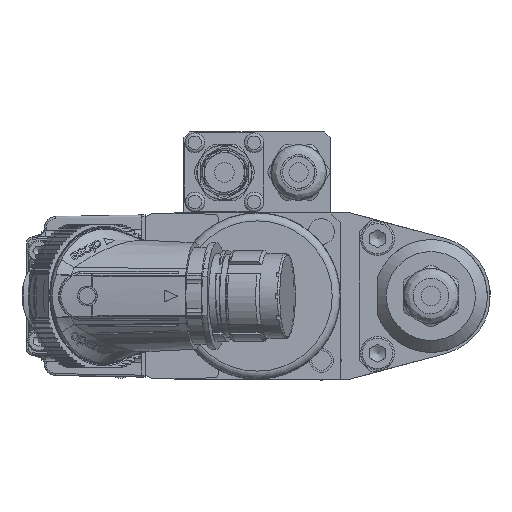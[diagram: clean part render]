
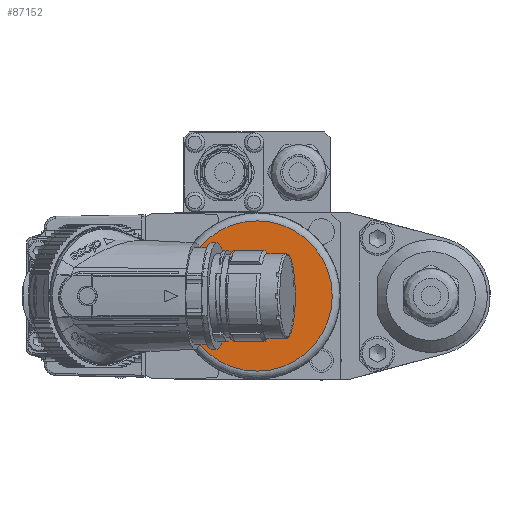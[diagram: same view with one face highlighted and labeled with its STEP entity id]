
A CAD part, left-side view. The second image highlights one B-rep face of the part: STEP entity #87152.
In plain terms, the highlighted planar face has unit normal (-1, 0, 0).
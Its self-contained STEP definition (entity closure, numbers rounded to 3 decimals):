
#5220 = DIRECTION ( 'NONE',  ( 0., 0., 1. ) ) ;
#8245 = CARTESIAN_POINT ( 'NONE',  ( -279., 0., 19. ) ) ;
#14667 = FACE_OUTER_BOUND ( 'NONE', #82943, .T. ) ;
#34367 = AXIS2_PLACEMENT_3D ( 'NONE', #110370, #57926, #5220 ) ;
#51052 = PLANE ( 'NONE',  #55715 ) ;
#55715 = AXIS2_PLACEMENT_3D ( 'NONE', #86173, #112675, #60238 ) ;
#57926 = DIRECTION ( 'NONE',  ( -1., 0., 0. ) ) ;
#60238 = DIRECTION ( 'NONE',  ( 0., 0., 1. ) ) ;
#72549 = VERTEX_POINT ( 'NONE', #8245 ) ;
#78583 = CIRCLE ( 'NONE', #34367, 19. ) ;
#82943 = EDGE_LOOP ( 'NONE', ( #84341 ) ) ;
#84341 = ORIENTED_EDGE ( 'NONE', *, *, #95912, .T. ) ;
#86173 = CARTESIAN_POINT ( 'NONE',  ( -279., 0., 0. ) ) ;
#87152 = ADVANCED_FACE ( 'NONE', ( #14667 ), #51052, .T. ) ;
#95912 = EDGE_CURVE ( 'NONE', #72549, #72549, #78583, .T. ) ;
#110370 = CARTESIAN_POINT ( 'NONE',  ( -279., 0., 0. ) ) ;
#112675 = DIRECTION ( 'NONE',  ( -1., 0., 0. ) ) ;
